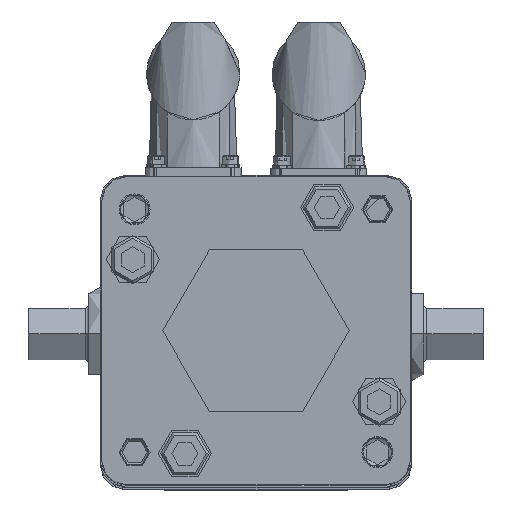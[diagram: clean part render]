
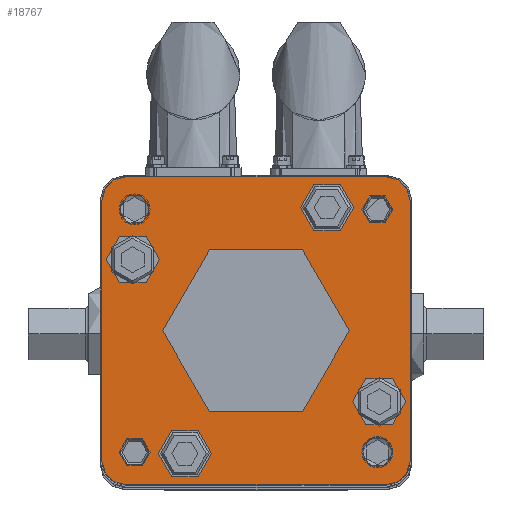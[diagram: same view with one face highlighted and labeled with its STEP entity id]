
A CAD part, top view. The second image highlights one B-rep face of the part: STEP entity #18767.
In plain terms, the highlighted planar face has unit normal (0, 0, 1).
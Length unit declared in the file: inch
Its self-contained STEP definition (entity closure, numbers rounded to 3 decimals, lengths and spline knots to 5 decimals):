
#3313=DIRECTION('',(0.,-1.,0.));
#3314=VECTOR('',#3313,2.75);
#3315=CARTESIAN_POINT('',(1.625,1.375,4.072));
#3316=LINE('',#3315,#3314);
#3317=CARTESIAN_POINT('',(-1.375,-1.375,4.072));
#3318=DIRECTION('',(0.,0.,1.));
#3319=DIRECTION('',(-1.,0.,0.));
#3320=AXIS2_PLACEMENT_3D('',#3317,#3318,#3319);
#3322=CARTESIAN_POINT('',(-1.375,1.375,4.072));
#3323=DIRECTION('',(0.,0.,1.));
#3324=DIRECTION('',(0.,1.,0.));
#3325=AXIS2_PLACEMENT_3D('',#3322,#3323,#3324);
#3327=CARTESIAN_POINT('',(1.375,1.375,4.072));
#3328=DIRECTION('',(0.,0.,1.));
#3329=DIRECTION('',(1.,0.,0.));
#3330=AXIS2_PLACEMENT_3D('',#3327,#3328,#3329);
#3332=CARTESIAN_POINT('',(1.375,-1.375,4.072));
#3333=DIRECTION('',(0.,0.,1.));
#3334=DIRECTION('',(0.,-1.,0.));
#3335=AXIS2_PLACEMENT_3D('',#3332,#3333,#3334);
#3337=CARTESIAN_POINT('',(-0.75,-1.29904,4.072));
#3338=DIRECTION('',(0.,0.,-1.));
#3339=DIRECTION('',(-1.,0.,0.));
#3340=AXIS2_PLACEMENT_3D('',#3337,#3338,#3339);
#3342=CARTESIAN_POINT('',(-0.75,-1.29904,4.072));
#3343=DIRECTION('',(0.,0.,-1.));
#3344=DIRECTION('',(1.,0.,0.));
#3345=AXIS2_PLACEMENT_3D('',#3342,#3343,#3344);
#3347=CARTESIAN_POINT('',(0.75,1.29904,4.072));
#3348=DIRECTION('',(0.,0.,-1.));
#3349=DIRECTION('',(-1.,0.,0.));
#3350=AXIS2_PLACEMENT_3D('',#3347,#3348,#3349);
#3352=CARTESIAN_POINT('',(0.75,1.29904,4.072));
#3353=DIRECTION('',(0.,0.,-1.));
#3354=DIRECTION('',(1.,0.,0.));
#3355=AXIS2_PLACEMENT_3D('',#3352,#3353,#3354);
#3357=CARTESIAN_POINT('',(-1.28059,-1.28059,4.072));
#3358=DIRECTION('',(0.,0.,-1.));
#3359=DIRECTION('',(-1.,0.,0.));
#3360=AXIS2_PLACEMENT_3D('',#3357,#3358,#3359);
#3362=CARTESIAN_POINT('',(-1.28059,-1.28059,4.072));
#3363=DIRECTION('',(0.,0.,-1.));
#3364=DIRECTION('',(1.,0.,0.));
#3365=AXIS2_PLACEMENT_3D('',#3362,#3363,#3364);
#3367=CARTESIAN_POINT('',(0.,0.,4.072));
#3368=DIRECTION('',(0.,0.,-1.));
#3369=DIRECTION('',(1.,0.,0.));
#3370=AXIS2_PLACEMENT_3D('',#3367,#3368,#3369);
#3372=CARTESIAN_POINT('',(0.,0.,4.072));
#3373=DIRECTION('',(0.,0.,-1.));
#3374=DIRECTION('',(-1.,0.,0.));
#3375=AXIS2_PLACEMENT_3D('',#3372,#3373,#3374);
#3377=CARTESIAN_POINT('',(1.28059,1.28059,4.072));
#3378=DIRECTION('',(0.,0.,-1.));
#3379=DIRECTION('',(-1.,0.,0.));
#3380=AXIS2_PLACEMENT_3D('',#3377,#3378,#3379);
#3382=CARTESIAN_POINT('',(1.28059,1.28059,4.072));
#3383=DIRECTION('',(0.,0.,-1.));
#3384=DIRECTION('',(1.,0.,0.));
#3385=AXIS2_PLACEMENT_3D('',#3382,#3383,#3384);
#3387=CARTESIAN_POINT('',(1.28059,-1.28059,4.072));
#3388=DIRECTION('',(0.,0.,-1.));
#3389=DIRECTION('',(-1.,0.,0.));
#3390=AXIS2_PLACEMENT_3D('',#3387,#3388,#3389);
#3392=CARTESIAN_POINT('',(1.28059,-1.28059,4.072));
#3393=DIRECTION('',(0.,0.,-1.));
#3394=DIRECTION('',(1.,0.,0.));
#3395=AXIS2_PLACEMENT_3D('',#3392,#3393,#3394);
#3397=CARTESIAN_POINT('',(-1.28059,1.28059,4.072));
#3398=DIRECTION('',(0.,0.,-1.));
#3399=DIRECTION('',(-1.,0.,0.));
#3400=AXIS2_PLACEMENT_3D('',#3397,#3398,#3399);
#3402=CARTESIAN_POINT('',(-1.28059,1.28059,4.072));
#3403=DIRECTION('',(0.,0.,-1.));
#3404=DIRECTION('',(1.,0.,0.));
#3405=AXIS2_PLACEMENT_3D('',#3402,#3403,#3404);
#3407=CARTESIAN_POINT('',(1.29904,-0.75,4.072));
#3408=DIRECTION('',(0.,0.,-1.));
#3409=DIRECTION('',(-1.,0.,0.));
#3410=AXIS2_PLACEMENT_3D('',#3407,#3408,#3409);
#3412=CARTESIAN_POINT('',(1.29904,-0.75,4.072));
#3413=DIRECTION('',(0.,0.,-1.));
#3414=DIRECTION('',(1.,0.,0.));
#3415=AXIS2_PLACEMENT_3D('',#3412,#3413,#3414);
#3417=CARTESIAN_POINT('',(-1.29904,0.75,4.072));
#3418=DIRECTION('',(0.,0.,-1.));
#3419=DIRECTION('',(-1.,0.,0.));
#3420=AXIS2_PLACEMENT_3D('',#3417,#3418,#3419);
#3422=CARTESIAN_POINT('',(-1.29904,0.75,4.072));
#3423=DIRECTION('',(0.,0.,-1.));
#3424=DIRECTION('',(1.,0.,0.));
#3425=AXIS2_PLACEMENT_3D('',#3422,#3423,#3424);
#3427=DIRECTION('',(-1.,0.,0.));
#3428=VECTOR('',#3427,2.75);
#3429=CARTESIAN_POINT('',(1.375,-1.625,4.072));
#3430=LINE('',#3429,#3428);
#3439=DIRECTION('',(0.,1.,0.));
#3440=VECTOR('',#3439,2.75);
#3441=CARTESIAN_POINT('',(-1.625,-1.375,4.072));
#3442=LINE('',#3441,#3440);
#3451=DIRECTION('',(1.,0.,0.));
#3452=VECTOR('',#3451,2.75);
#3453=CARTESIAN_POINT('',(-1.375,1.625,4.072));
#3454=LINE('',#3453,#3452);
#14521=CARTESIAN_POINT('',(1.1172,1.28059,4.072));
#14522=VERTEX_POINT('',#14521);
#14531=CARTESIAN_POINT('',(1.03126,1.29904,4.072));
#14533=VERTEX_POINT('',#14531);
#14539=CARTESIAN_POINT('',(-1.44397,-1.28059,4.072));
#14540=VERTEX_POINT('',#14539);
#14541=CARTESIAN_POINT('',(-1.1172,-1.28059,4.072));
#14542=VERTEX_POINT('',#14541);
#14577=CARTESIAN_POINT('',(1.44397,1.28059,4.072));
#14578=VERTEX_POINT('',#14577);
#14587=CARTESIAN_POINT('',(-1.03126,-1.29904,4.072));
#14588=VERTEX_POINT('',#14587);
#14589=CARTESIAN_POINT('',(-0.46874,-1.29904,4.072));
#14590=VERTEX_POINT('',#14589);
#14609=CARTESIAN_POINT('',(0.98425,0.,4.072));
#14610=VERTEX_POINT('',#14609);
#14615=CARTESIAN_POINT('',(1.5803,-0.75,4.072));
#14616=CARTESIAN_POINT('',(1.01778,-0.75,4.072));
#14617=VERTEX_POINT('',#14615);
#14618=VERTEX_POINT('',#14616);
#14623=CARTESIAN_POINT('',(0.46874,1.29904,4.072));
#14624=VERTEX_POINT('',#14623);
#14663=CARTESIAN_POINT('',(-0.98425,0.,4.072));
#14664=VERTEX_POINT('',#14663);
#14669=CARTESIAN_POINT('',(-1.5803,0.75,4.072));
#14671=VERTEX_POINT('',#14669);
#14675=CARTESIAN_POINT('',(-1.44397,1.28059,4.072));
#14677=VERTEX_POINT('',#14675);
#14679=CARTESIAN_POINT('',(1.44397,-1.28059,4.072));
#14680=VERTEX_POINT('',#14679);
#14681=CARTESIAN_POINT('',(-1.01778,0.75,4.072));
#14682=VERTEX_POINT('',#14681);
#14683=CARTESIAN_POINT('',(1.1172,-1.28059,4.072));
#14684=VERTEX_POINT('',#14683);
#14685=CARTESIAN_POINT('',(-1.1172,1.28059,4.072));
#14686=VERTEX_POINT('',#14685);
#16311=CARTESIAN_POINT('',(1.375,-1.625,4.072));
#16312=CARTESIAN_POINT('',(-1.375,-1.625,4.072));
#16313=VERTEX_POINT('',#16311);
#16314=VERTEX_POINT('',#16312);
#16317=CARTESIAN_POINT('',(-1.375,1.625,4.072));
#16318=CARTESIAN_POINT('',(-1.625,1.375,4.072));
#16319=VERTEX_POINT('',#16317);
#16320=VERTEX_POINT('',#16318);
#16321=CARTESIAN_POINT('',(-1.625,-1.375,4.072));
#16322=VERTEX_POINT('',#16321);
#16343=CARTESIAN_POINT('',(1.625,-1.375,4.072));
#16344=VERTEX_POINT('',#16343);
#16345=CARTESIAN_POINT('',(1.625,1.375,4.072));
#16346=VERTEX_POINT('',#16345);
#16347=CARTESIAN_POINT('',(1.375,1.625,4.072));
#16348=VERTEX_POINT('',#16347);
#18691=CARTESIAN_POINT('',(1.625,1.625,4.072));
#18692=DIRECTION('',(0.,0.,-1.));
#18693=DIRECTION('',(-1.,0.,0.));
#18694=AXIS2_PLACEMENT_3D('',#18691,#18692,#18693);
#18695=PLANE('',#18694);
#18697=ORIENTED_EDGE('',*,*,#18696,.T.);
#18699=ORIENTED_EDGE('',*,*,#18698,.F.);
#18701=ORIENTED_EDGE('',*,*,#18700,.T.);
#18703=ORIENTED_EDGE('',*,*,#18702,.F.);
#18705=ORIENTED_EDGE('',*,*,#18704,.T.);
#18707=ORIENTED_EDGE('',*,*,#18706,.F.);
#18708=ORIENTED_EDGE('',*,*,#18681,.T.);
#18710=ORIENTED_EDGE('',*,*,#18709,.F.);
#18711=EDGE_LOOP('',(#18697,#18699,#18701,#18703,#18705,#18707,#18708,#18710));
#18712=FACE_OUTER_BOUND('',#18711,.F.);
#18714=ORIENTED_EDGE('',*,*,#18713,.F.);
#18716=ORIENTED_EDGE('',*,*,#18715,.F.);
#18717=EDGE_LOOP('',(#18714,#18716));
#18718=FACE_BOUND('',#18717,.F.);
#18720=ORIENTED_EDGE('',*,*,#18719,.F.);
#18722=ORIENTED_EDGE('',*,*,#18721,.F.);
#18723=EDGE_LOOP('',(#18720,#18722));
#18724=FACE_BOUND('',#18723,.F.);
#18726=ORIENTED_EDGE('',*,*,#18725,.F.);
#18728=ORIENTED_EDGE('',*,*,#18727,.F.);
#18729=EDGE_LOOP('',(#18726,#18728));
#18730=FACE_BOUND('',#18729,.F.);
#18732=ORIENTED_EDGE('',*,*,#18731,.F.);
#18734=ORIENTED_EDGE('',*,*,#18733,.F.);
#18735=EDGE_LOOP('',(#18732,#18734));
#18736=FACE_BOUND('',#18735,.F.);
#18738=ORIENTED_EDGE('',*,*,#18737,.F.);
#18740=ORIENTED_EDGE('',*,*,#18739,.F.);
#18741=EDGE_LOOP('',(#18738,#18740));
#18742=FACE_BOUND('',#18741,.F.);
#18744=ORIENTED_EDGE('',*,*,#18743,.F.);
#18746=ORIENTED_EDGE('',*,*,#18745,.F.);
#18747=EDGE_LOOP('',(#18744,#18746));
#18748=FACE_BOUND('',#18747,.F.);
#18750=ORIENTED_EDGE('',*,*,#18749,.F.);
#18752=ORIENTED_EDGE('',*,*,#18751,.F.);
#18753=EDGE_LOOP('',(#18750,#18752));
#18754=FACE_BOUND('',#18753,.F.);
#18756=ORIENTED_EDGE('',*,*,#18755,.F.);
#18758=ORIENTED_EDGE('',*,*,#18757,.F.);
#18759=EDGE_LOOP('',(#18756,#18758));
#18760=FACE_BOUND('',#18759,.F.);
#18762=ORIENTED_EDGE('',*,*,#18761,.F.);
#18764=ORIENTED_EDGE('',*,*,#18763,.F.);
#18765=EDGE_LOOP('',(#18762,#18764));
#18766=FACE_BOUND('',#18765,.F.);
#18767=ADVANCED_FACE('',(#18712,#18718,#18724,#18730,#18736,#18742,#18748,
#18754,#18760,#18766),#18695,.F.);
#3321=CIRCLE('',#3320,0.25);
#3326=CIRCLE('',#3325,0.25);
#3331=CIRCLE('',#3330,0.25);
#3336=CIRCLE('',#3335,0.25);
#3341=CIRCLE('',#3340,0.28126);
#3346=CIRCLE('',#3345,0.28126);
#3351=CIRCLE('',#3350,0.28126);
#3356=CIRCLE('',#3355,0.28126);
#3361=CIRCLE('',#3360,0.16339);
#3366=CIRCLE('',#3365,0.16339);
#3371=CIRCLE('',#3370,0.98425);
#3376=CIRCLE('',#3375,0.98425);
#3381=CIRCLE('',#3380,0.16339);
#3386=CIRCLE('',#3385,0.16339);
#3391=CIRCLE('',#3390,0.16339);
#3396=CIRCLE('',#3395,0.16339);
#3401=CIRCLE('',#3400,0.16339);
#3406=CIRCLE('',#3405,0.16339);
#3411=CIRCLE('',#3410,0.28126);
#3416=CIRCLE('',#3415,0.28126);
#3421=CIRCLE('',#3420,0.28126);
#3426=CIRCLE('',#3425,0.28126);
#18681=EDGE_CURVE('',#16346,#16344,#3316,.T.);
#18696=EDGE_CURVE('',#16313,#16314,#3430,.T.);
#18698=EDGE_CURVE('',#16322,#16314,#3321,.T.);
#18700=EDGE_CURVE('',#16322,#16320,#3442,.T.);
#18702=EDGE_CURVE('',#16319,#16320,#3326,.T.);
#18704=EDGE_CURVE('',#16319,#16348,#3454,.T.);
#18706=EDGE_CURVE('',#16346,#16348,#3331,.T.);
#18709=EDGE_CURVE('',#16313,#16344,#3336,.T.);
#18713=EDGE_CURVE('',#14588,#14590,#3341,.T.);
#18715=EDGE_CURVE('',#14590,#14588,#3346,.T.);
#18719=EDGE_CURVE('',#14624,#14533,#3351,.T.);
#18721=EDGE_CURVE('',#14533,#14624,#3356,.T.);
#18725=EDGE_CURVE('',#14540,#14542,#3361,.T.);
#18727=EDGE_CURVE('',#14542,#14540,#3366,.T.);
#18731=EDGE_CURVE('',#14610,#14664,#3371,.T.);
#18733=EDGE_CURVE('',#14664,#14610,#3376,.T.);
#18737=EDGE_CURVE('',#14522,#14578,#3381,.T.);
#18739=EDGE_CURVE('',#14578,#14522,#3386,.T.);
#18743=EDGE_CURVE('',#14684,#14680,#3391,.T.);
#18745=EDGE_CURVE('',#14680,#14684,#3396,.T.);
#18749=EDGE_CURVE('',#14677,#14686,#3401,.T.);
#18751=EDGE_CURVE('',#14686,#14677,#3406,.T.);
#18755=EDGE_CURVE('',#14618,#14617,#3411,.T.);
#18757=EDGE_CURVE('',#14617,#14618,#3416,.T.);
#18761=EDGE_CURVE('',#14671,#14682,#3421,.T.);
#18763=EDGE_CURVE('',#14682,#14671,#3426,.T.);
